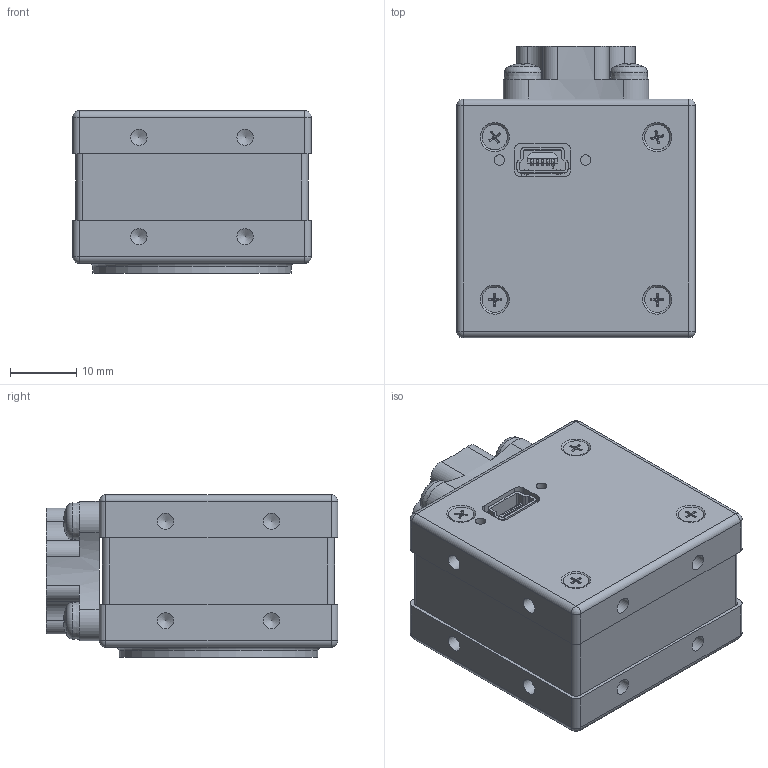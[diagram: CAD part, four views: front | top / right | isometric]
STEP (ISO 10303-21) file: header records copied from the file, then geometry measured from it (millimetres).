
FILE_DESCRIPTION(/* description */ ('XXXXplatte'),/* implementation_level */ '2;1');
FILE_NAME(/* name */ 'D:\1_Konstruktion\1_KUNDEN\TIS\154-13_MC36-Camera (Opto Precision)\Dumme-Modelle\154-13-1_(MC36-AUC-Kamera).stp',/* time_stamp */ '2015-02-01T07:18:36+01:00',/* author */ ('khw'),/* organization */ (''),/* preprocessor_version */ 'ST-DEVELOPER v15.2',/* originating_system */ 'Autodesk Inventor 2014',/* authorisation */ '6767,5 mm^3');
FILE_SCHEMA (('AUTOMOTIVE_DESIGN { 1 0 10303 214 3 1 1 }'));
Length unit declared in the file: millimetre
Products named in the file (1): 154-13-1_(MC36-AUC-Kamera)_3 Abl_mitTrip
Bounding box: 36 x 44 x 24.5 mm (x, y, z)
Volume: 17004.2 mm3; surface area: 15522.5 mm2
Topology: 7 solids, 7 shells, 689 faces, 1817 edges, 1172 vertices
Faces by surface type: plane 332, cylinder 173, cone 123, torus 45, sphere 16
Full cylindrical faces by diameter (mm): 1 x1, 1.567 x6, 1.755 x4, 2 x4, 2.3 x4, 2.459 x16, 2.729 x4, 3 x4, 3.4 x4, 3.8 x4, 4 x4, 4.917 x1, 4.978 x1, 12 x1, 24.536 x1, 26 x1, 30 x1
Entity records: 21357 total; most frequent: CARTESIAN_POINT 4440, DIRECTION 3372, ORIENTED_EDGE 3218, EDGE_CURVE 1609, AXIS2_PLACEMENT_3D 1251, VERTEX_POINT 1109, EDGE_LOOP 892, LINE 870
